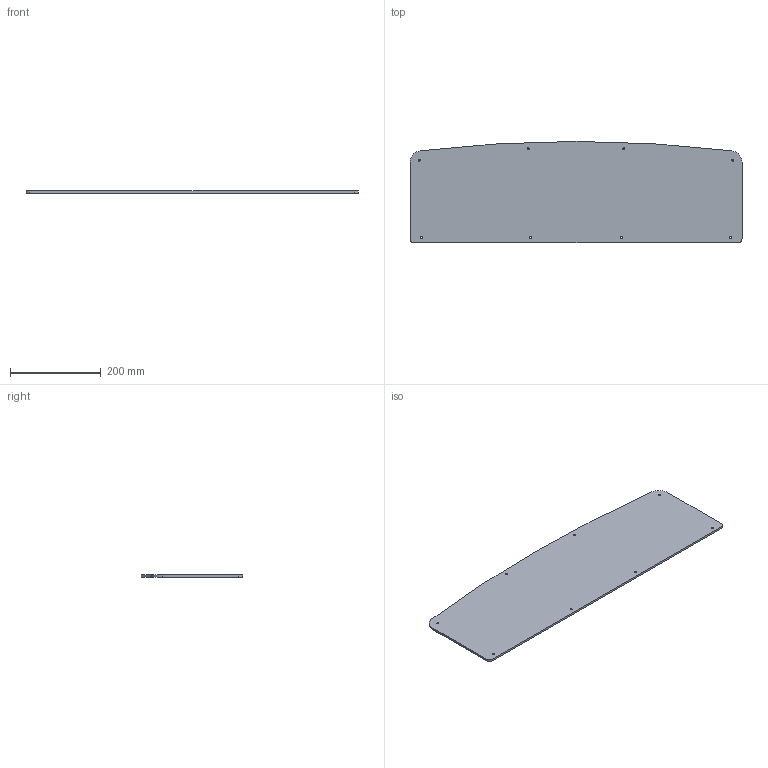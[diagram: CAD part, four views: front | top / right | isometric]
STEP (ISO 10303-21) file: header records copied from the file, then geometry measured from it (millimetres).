
FILE_DESCRIPTION(('Open CASCADE Model'),'2;1');
FILE_NAME('Open CASCADE Shape Model','2026-09-26T16:24:15',('Author'),( 'Open CASCADE'),'Open CASCADE STEP processor 7.9','Open CASCADE 7.9' ,'Unknown');
FILE_SCHEMA(('AUTOMOTIVE_DESIGN { 1 0 10303 214 1 1 1 1 }'));
Length unit declared in the file: millimetre
Products named in the file (1): Open CASCADE STEP translator 7.9 3
Bounding box: 730.4 x 222.4 x 4.5 mm (x, y, z)
Volume: 703927.1 mm3; surface area: 321599.1 mm2
Topology: 1 solids, 1 shells, 18 faces, 48 edges, 32 vertices
Faces by surface type: cylinder 13, plane 5
Full cylindrical faces by diameter (mm): 4.2 x8
Entity records: 1244 total; most frequent: DIRECTION 208, CARTESIAN_POINT 195, ORIENTED_EDGE 96, PCURVE 96, DEFINITIONAL_REPRESENTATION 96, LINE 92, VECTOR 92, CIRCLE 52
